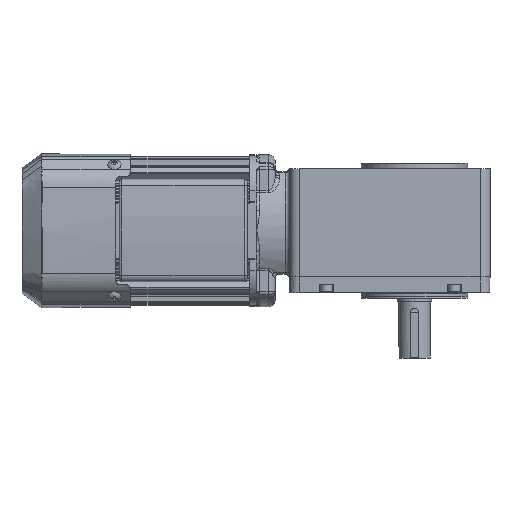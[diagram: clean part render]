
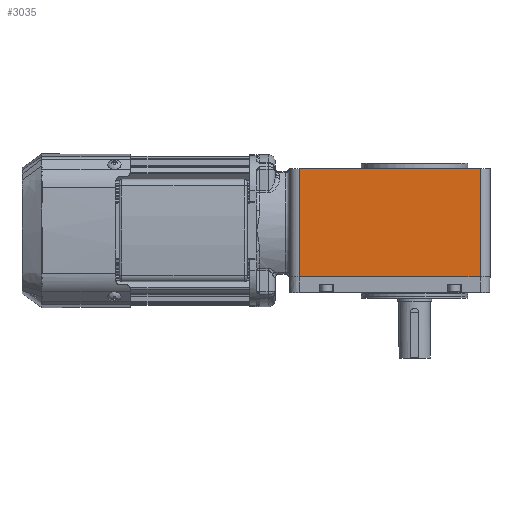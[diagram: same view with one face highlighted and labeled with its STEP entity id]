
A CAD part, top view. The second image highlights one B-rep face of the part: STEP entity #3035.
In plain terms, the highlighted planar face has unit normal (0, 0, 1).
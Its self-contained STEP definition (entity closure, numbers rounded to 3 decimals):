
#3035 = ADVANCED_FACE( '', ( #6751 ), #6752, .T. );
#6751 = FACE_OUTER_BOUND( '', #16166, .T. );
#6752 = PLANE( '', #16167 );
#16166 = EDGE_LOOP( '', ( #28211, #28212, #28213, #28214 ) );
#16167 = AXIS2_PLACEMENT_3D( '', #28215, #28216, #28217 );
#28211 = ORIENTED_EDGE( '', *, *, #35840, .F. );
#28212 = ORIENTED_EDGE( '', *, *, #37166, .T. );
#28213 = ORIENTED_EDGE( '', *, *, #37167, .T. );
#28214 = ORIENTED_EDGE( '', *, *, #37168, .T. );
#28215 = CARTESIAN_POINT( '', ( 104.152, 77., 53. ) );
#28216 = DIRECTION( '', ( 0., 0., 1. ) );
#28217 = DIRECTION( '', ( 1., 0., 0. ) );
#35840 = EDGE_CURVE( '', #42075, #42077, #42078, .T. );
#37166 = EDGE_CURVE( '', #42075, #43927, #43928, .T. );
#37167 = EDGE_CURVE( '', #43927, #43929, #43930, .T. );
#37168 = EDGE_CURVE( '', #43929, #42077, #43931, .T. );
#42075 = VERTEX_POINT( '', #52152 );
#42077 = VERTEX_POINT( '', #52154 );
#42078 = LINE( '', #52155, #52156 );
#43927 = VERTEX_POINT( '', #56121 );
#43928 = LINE( '', #56122, #56123 );
#43929 = VERTEX_POINT( '', #56124 );
#43930 = LINE( '', #56125, #56126 );
#43931 = LINE( '', #56127, #56128 );
#52152 = CARTESIAN_POINT( '', ( 104.152, 76.5, 53. ) );
#52154 = CARTESIAN_POINT( '', ( 104.152, 0.5, 53. ) );
#52155 = CARTESIAN_POINT( '', ( 104.152, 77., 53. ) );
#52156 = VECTOR( '', #61927, 1000. );
#56121 = CARTESIAN_POINT( '', ( -22.848, 76.5, 53. ) );
#56122 = CARTESIAN_POINT( '', ( 104.152, 76.5, 53. ) );
#56123 = VECTOR( '', #63572, 1000. );
#56124 = CARTESIAN_POINT( '', ( -22.848, 0.5, 53. ) );
#56125 = CARTESIAN_POINT( '', ( -22.848, 77., 53. ) );
#56126 = VECTOR( '', #63573, 1000. );
#56127 = CARTESIAN_POINT( '', ( 104.152, 0.5, 53. ) );
#56128 = VECTOR( '', #63574, 1000. );
#61927 = DIRECTION( '', ( 0., -1., 0. ) );
#63572 = DIRECTION( '', ( -1., 0., 0. ) );
#63573 = DIRECTION( '', ( 0., -1., 0. ) );
#63574 = DIRECTION( '', ( 1., 0., 0. ) );
